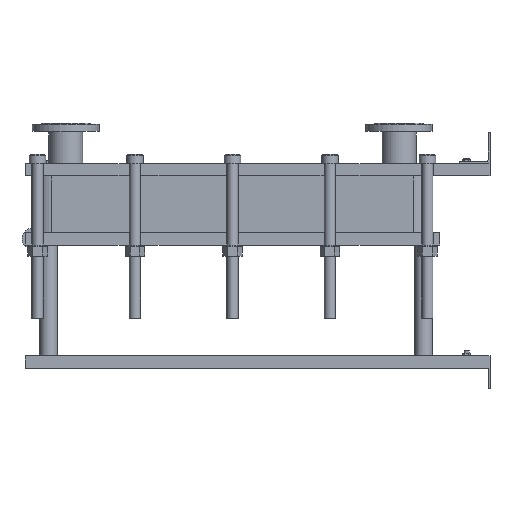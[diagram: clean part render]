
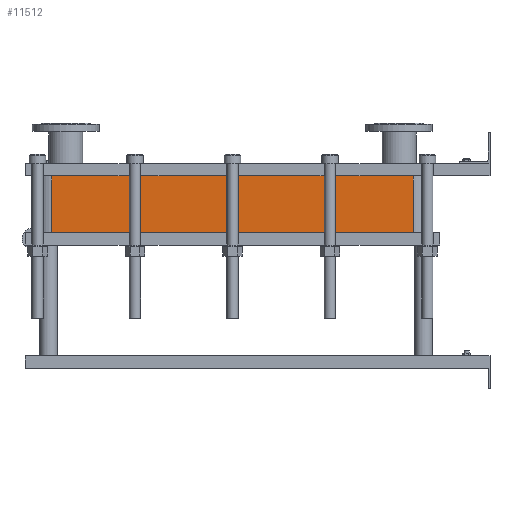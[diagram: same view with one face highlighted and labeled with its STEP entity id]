
A CAD part, left-side view. The second image highlights one B-rep face of the part: STEP entity #11512.
In plain terms, the highlighted planar face has unit normal (-1, 0, 0).
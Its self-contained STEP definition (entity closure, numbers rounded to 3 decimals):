
#1129=LINE('',#23232,#2102);
#1130=LINE('',#23236,#2103);
#1131=LINE('',#23238,#2104);
#1132=LINE('',#23239,#2105);
#2102=VECTOR('',#15887,10.);
#2103=VECTOR('',#15892,10.);
#2104=VECTOR('',#15893,10.);
#2105=VECTOR('',#15894,10.);
#3267=FACE_OUTER_BOUND('',#4093,.T.);
#4093=EDGE_LOOP('',(#10103,#10104,#10105,#10106));
#5642=VERTEX_POINT('',#23229);
#5643=VERTEX_POINT('',#23231);
#5644=VERTEX_POINT('',#23235);
#5645=VERTEX_POINT('',#23237);
#7159=EDGE_CURVE('',#5643,#5642,#1129,.T.);
#7161=EDGE_CURVE('',#5642,#5644,#1130,.T.);
#7162=EDGE_CURVE('',#5645,#5644,#1131,.T.);
#7163=EDGE_CURVE('',#5645,#5643,#1132,.T.);
#10103=ORIENTED_EDGE('',*,*,#7161,.T.);
#10104=ORIENTED_EDGE('',*,*,#7162,.F.);
#10105=ORIENTED_EDGE('',*,*,#7163,.T.);
#10106=ORIENTED_EDGE('',*,*,#7159,.T.);
#10857=PLANE('',#12751);
#11512=ADVANCED_FACE('',(#3267),#10857,.T.);
#12751=AXIS2_PLACEMENT_3D('',#23234,#15890,#15891);
#15887=DIRECTION('',(0.,0.,-1.));
#15890=DIRECTION('center_axis',(-1.,0.,0.));
#15891=DIRECTION('ref_axis',(0.,1.,0.));
#15892=DIRECTION('',(0.,-1.,0.));
#15893=DIRECTION('',(0.,0.,-1.));
#15894=DIRECTION('',(0.,1.,0.));
#23229=CARTESIAN_POINT('',(-200.,1414.,-182.85));
#23231=CARTESIAN_POINT('',(-200.,1414.,0.));
#23232=CARTESIAN_POINT('',(-200.,1414.,0.));
#23234=CARTESIAN_POINT('Origin',(-200.,248.,0.));
#23235=CARTESIAN_POINT('',(-200.,248.,-182.85));
#23236=CARTESIAN_POINT('',(-200.,539.5,-182.85));
#23237=CARTESIAN_POINT('',(-200.,248.,0.));
#23238=CARTESIAN_POINT('',(-200.,248.,0.));
#23239=CARTESIAN_POINT('',(-200.,248.,0.));
